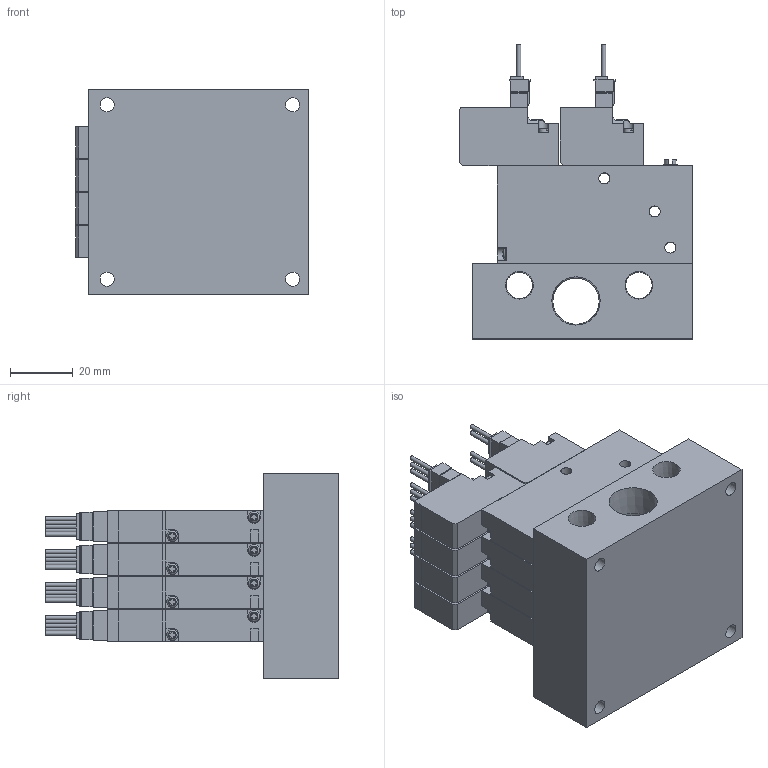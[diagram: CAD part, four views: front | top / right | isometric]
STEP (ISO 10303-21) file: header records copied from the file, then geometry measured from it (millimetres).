
FILE_DESCRIPTION(('STEP AP203'),'1');
FILE_NAME('BMPV42MZZ5W404.stp','2025-04-30T01:48:51',(' '),(' '),'Spatial InterOp 3D',' ',' ');
FILE_SCHEMA(('CONFIG_CONTROL_DESIGN'));
Length unit declared in the file: millimetre
Products named in the file (5): BMPV42MZZ5W404; VACUUM VALVE FUNCTION MPV42-W; VACUUM VALVE FUNCTION MPV42-A; UNIT-MPV42; MPV42-M40R-1
Assembly tree (13 placements, depth 2):
  BMPV42MZZ5W404
    VACUUM VALVE FUNCTION MPV42-W  x4
    VACUUM VALVE FUNCTION MPV42-A  x4
    UNIT-MPV42  x4
    MPV42-M40R-1
Bounding box: 74 x 93.45 x 65.5 mm (x, y, z)
Volume: 206670.7 mm3; surface area: 67349.6 mm2
Topology: 13 solids, 13 shells, 1075 faces, 2893 edges, 1928 vertices
Faces by surface type: plane 870, cylinder 171, cone 18, sphere 8, torus 8
Full cylindrical faces by diameter (mm): 1.4 x20, 1.8 x4, 2.2 x8, 3 x16, 3.5 x28, 4.134 x4, 4.5 x4, 5 x4, 8.441 x2, 14.744 x1
Entity records: 8887 total; most frequent: CARTESIAN_POINT 1599, DIRECTION 1421, ORIENTED_EDGE 1402, EDGE_CURVE 701, LINE 559, VECTOR 559, VERTEX_POINT 489, AXIS2_PLACEMENT_3D 431
